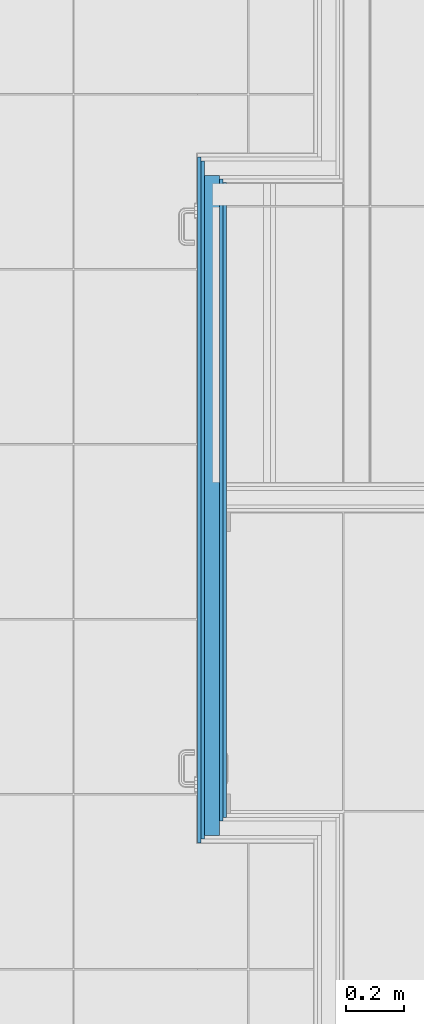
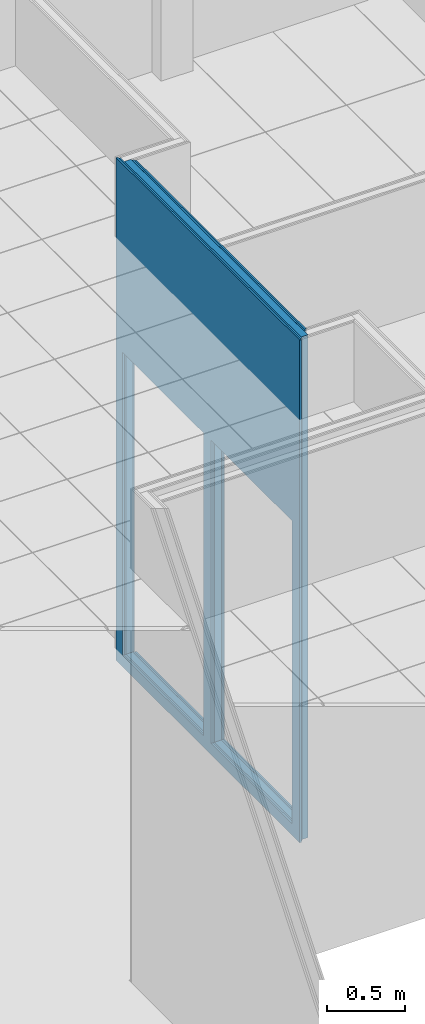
# One storey, part 46 of 321: 5 building element parts, 2 openings, 1 element without a shape of its own.
"""IFC2X3 building model written with IfcOpenShell, lengths in millimetres."""

from ifc_helpers import new_model, entity, si_unit, converted_unit, derived_unit, money_unit, direction, frame, origin_with_axes, place, context, subcontext, project, spatial, faceted_brep, material, type_object, element, aggregate, save


model = new_model("IFC2X3")

# Units and contexts
model_context = context("Model", 3, precision=0.01, world=origin_with_axes(), true_north=direction((0.0, 1.0)))
plan_context = context("Plan", 3, precision=0.01, world=origin_with_axes(), true_north=direction((0.0, 1.0)))
body_context = subcontext(model_context, "Body", "Model", "MODEL_VIEW")
ifc_project = project(units=[si_unit("LENGTHUNIT", "METRE", prefix="MILLI"), si_unit("AREAUNIT", "SQUARE_METRE"), si_unit("VOLUMEUNIT", "CUBIC_METRE"), converted_unit("PLANEANGLEUNIT", "DEGREE", entity("IfcPlaneAngleMeasure", 0.0174532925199), si_unit("PLANEANGLEUNIT", "RADIAN"), dimensions=[0, 0, 0, 0, 0, 0, 0]), money_unit("EUR"), converted_unit("TIMEUNIT", "Year", entity("IfcTimeMeasure", 31556926.0), si_unit("TIMEUNIT", "SECOND"), dimensions=[0, 0, 1, 0, 0, 0, 0]), si_unit("MASSUNIT", "GRAM", prefix="KILO"), si_unit("THERMODYNAMICTEMPERATUREUNIT", "DEGREE_CELSIUS"), si_unit("LUMINOUSINTENSITYUNIT", "LUMEN"), si_unit("ENERGYUNIT", "JOULE", prefix="MEGA"), derived_unit("THERMALCONDUCTANCEUNIT", [(si_unit("POWERUNIT", "WATT"), 1), (si_unit("LENGTHUNIT", "METRE"), -1), (si_unit("THERMODYNAMICTEMPERATUREUNIT", "KELVIN"), -1)]), derived_unit("SPECIFICHEATCAPACITYUNIT", [(si_unit("ENERGYUNIT", "JOULE"), 1), (si_unit("MASSUNIT", "GRAM", prefix="KILO"), -1), (si_unit("THERMODYNAMICTEMPERATUREUNIT", "KELVIN"), -1)]), derived_unit("MASSDENSITYUNIT", [(si_unit("MASSUNIT", "GRAM", prefix="KILO"), 1), (si_unit("VOLUMEUNIT", "CUBIC_METRE"), -1)])], contexts=[model_context, plan_context])

# Site, building, storey
site_placement = place(None, origin_with_axes())
site = spatial("IfcSite", under=ifc_project, at=site_placement, Name="Fortuinstraat Woensdrecht", CompositionType="ELEMENT")
building_placement = place(site_placement, origin_with_axes())
building = spatial("IfcBuilding", under=site, at=building_placement, Name="IKC Fortuna", CompositionType="ELEMENT")
storey_placement = place(building_placement, frame((0.0, 0.0, 4000.0), z_axis=(0.0, 0.0, 1.0), x_axis=(1.0, 0.0, 0.0)))
storey = spatial("IfcBuildingStorey", under=building, at=storey_placement, Name="01 eerste verdieping", CompositionType="ELEMENT", Elevation=4000.0)

# Wall, openings, building element parts
wall_type = type_object("IfcWallType", Name="MS100 2.50.2A 100", PredefinedType="NOTDEFINED")
wall_placement = place(storey_placement, frame((27444.4698587, 25018.6284319, -90.0), z_axis=(0.0, 0.0, 1.0), x_axis=(0.0, 1.0, 0.0)))
wall = element("IfcWall", 1, at=wall_placement, inside=storey, type_object=wall_type, Name="22_Wand_Binnenwand")
opening_1_placement = place(wall_placement, frame((1751.0, 0.0, 90.0), z_axis=(0.0, 0.0, 1.0), x_axis=(1.0, 0.0, 0.0)))
element("IfcOpeningElement", 2, at=opening_1_placement, cuts=wall, Name="32_Deur_h.01d", context=body_context, shape_type="Brep", body=[
    faceted_brep([(-517.0, 200.0, 2367.0), (-517.0, 200.0, 0.0), (-517.0, -100.0, 0.0), (-517.0, -100.0, 2367.0), (517.0, 200.0, 2367.0), (517.0, 200.0, 0.0), (517.0, -96.0929833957, 0.0), (513.092983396, -100.0, 0.0), (513.092983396, -100.0, 2367.0), (517.0, -96.0929833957, 2367.0)], [[[0, 1, 2, 3]], [[0, 4, 5, 1]], [[1, 5, 6, 7, 2]], [[3, 2, 7, 8]], [[4, 0, 3, 8, 9]], [[5, 4, 9, 6]], [[7, 6, 9, 8]]]),
])
opening_2_placement = place(wall_placement, frame((617.0, 0.0, 90.0), z_axis=(0.0, 0.0, 1.0), x_axis=(1.0, 0.0, 0.0)))
element("IfcOpeningElement", 3, at=opening_2_placement, cuts=wall, Name="32_Deur_h.01d", context=body_context, shape_type="Brep", body=[
    faceted_brep([(517.0, -100.0, 2367.0), (517.0, -100.0, 0.0), (517.0, 200.0, 0.0), (517.0, 200.0, 2367.0), (-517.0, -100.0, 2367.0), (-517.0, -100.0, 0.0), (-517.0, 200.0, 0.0), (-517.0, 200.0, 2367.0)], [[[0, 1, 2, 3]], [[0, 4, 5, 1]], [[1, 5, 6, 2]], [[3, 2, 6, 7]], [[4, 0, 3, 7]], [[5, 4, 7, 6]]]),
])
ifc_material_1 = material(Name="Gipsplaat")
building_element_part_1_placement = place(wall_placement, origin_with_axes())
building_element_part_1 = element("IfcBuildingElementPart", 4, at=building_element_part_1_placement, material=ifc_material_1, Name="Gipsplaat", context=body_context, shape_type="Brep", body=[
    faceted_brep([(2351.5929834, 0.0, 0.0), (0.0, 0.0, 0.0), (0.0, 0.0, 3930.0), (2351.5929834, 0.0, 3930.0), (100.0, 0.0, 2457.0), (100.0, 0.0, 90.0), (1134.0, 0.0, 90.0), (1134.0, 0.0, 2457.0), (1234.0, -3.12924797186e-06, 90.0), (2268.0, -3.12924797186e-06, 90.0), (2268.0, -3.12924797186e-06, 2457.0), (1234.0, -3.12924797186e-06, 2457.0), (2351.5929834, -12.5, 0.0), (0.0, -12.5, 0.0), (0.0, -12.5, 3930.0), (2351.5929834, -12.5, 3930.0), (100.0, -12.5, 2457.0), (100.0, -12.5, 90.0), (1134.0, -12.5, 90.0), (1134.0, -12.5, 2457.0), (1234.0, -12.5, 90.0), (2268.0, -12.5, 90.0), (2268.0, -12.5, 2457.0), (1234.0, -12.5, 2457.0)], [[[0, 1, 2, 3], [4, 5, 6, 7], [8, 9, 10, 11]], [[12, 13, 1, 0]], [[14, 2, 1, 13]], [[3, 2, 14, 15]], [[15, 12, 0, 3]], [[4, 16, 17, 5]], [[5, 17, 18, 6]], [[6, 18, 19, 7]], [[7, 19, 16, 4]], [[20, 21, 9, 8]], [[21, 22, 10, 9]], [[22, 23, 11, 10]], [[23, 20, 8, 11]], [[15, 14, 13, 12], [18, 17, 16, 19], [20, 23, 22, 21]]]),
])
building_element_part_2_placement = place(wall_placement, origin_with_axes())
building_element_part_2 = element("IfcBuildingElementPart", 5, at=building_element_part_2_placement, material=ifc_material_1, Name="Gipsplaat", context=body_context, shape_type="Brep", body=[
    faceted_brep([(2339.0929834, -12.5, 0.0), (12.5, -12.5, 0.0), (12.5, -12.5, 3930.0), (2339.0929834, -12.5, 3930.0), (100.0, -12.5, 2457.0), (100.0, -12.5, 90.0), (1134.0, -12.5, 90.0), (1134.0, -12.5, 2457.0), (1234.0, -12.5, 90.0), (2268.0, -12.5, 90.0), (2268.0, -12.5, 2457.0), (1234.0, -12.5, 2457.0), (2339.0929834, -25.0, 0.0), (12.5, -25.0, 0.0), (12.5, -25.0, 3930.0), (2339.0929834, -25.0, 3930.0), (100.0, -25.0, 2457.0), (100.0, -25.0, 90.0), (1134.0, -25.0, 90.0), (1134.0, -25.0, 2457.0), (1234.0, -25.0, 90.0), (2268.0, -25.0, 90.0), (2268.0, -25.0, 2457.0), (1234.0, -25.0, 2457.0)], [[[0, 1, 2, 3], [4, 5, 6, 7], [8, 9, 10, 11]], [[12, 13, 1, 0]], [[14, 2, 1, 13]], [[3, 2, 14, 15]], [[15, 12, 0, 3]], [[4, 16, 17, 5]], [[5, 17, 18, 6]], [[6, 18, 19, 7]], [[7, 19, 16, 4]], [[20, 21, 9, 8]], [[21, 22, 10, 9]], [[22, 23, 11, 10]], [[23, 20, 8, 11]], [[15, 14, 13, 12], [18, 17, 16, 19], [20, 23, 22, 21]]]),
])
ifc_material_2 = material(Name="Isolatie - Steenwol LSW")
building_element_part_3_placement = place(wall_placement, origin_with_axes())
building_element_part_3 = element("IfcBuildingElementPart", 6, at=building_element_part_3_placement, material=ifc_material_2, Name="Isolatie - Steenwol LSW", context=body_context, shape_type="Brep", body=[
    faceted_brep([(2289.0929834, -25.0, 0.0), (25.0, -25.0, 0.0), (25.0, -25.0, 3930.0), (2289.0929834, -25.0, 3930.0), (100.0, -25.0, 2457.0), (100.0, -25.0, 90.0), (1134.0, -25.0, 90.0), (1134.0, -25.0, 2457.0), (1234.0, -25.0, 90.0), (2268.0, -25.0, 90.0), (2268.0, -25.0, 2457.0), (1234.0, -25.0, 2457.0), (2289.0929834, -75.0, 0.0), (25.0, -75.0, 0.0), (25.0, -75.0, 3930.0), (2289.0929834, -75.0, 3930.0), (100.0, -75.0, 2457.0), (100.0, -75.0, 90.0), (1134.0, -75.0, 90.0), (1134.0, -75.0, 2457.0), (1234.0, -75.0, 90.0), (2268.0, -75.0, 90.0), (2268.0, -75.0, 2457.0), (1234.0, -75.0, 2457.0)], [[[0, 1, 2, 3], [4, 5, 6, 7], [8, 9, 10, 11]], [[12, 13, 1, 0]], [[14, 2, 1, 13]], [[3, 2, 14, 15]], [[15, 12, 0, 3]], [[4, 16, 17, 5]], [[5, 17, 18, 6]], [[6, 18, 19, 7]], [[7, 19, 16, 4]], [[20, 21, 9, 8]], [[21, 22, 10, 9]], [[22, 23, 11, 10]], [[23, 20, 8, 11]], [[15, 14, 13, 12], [18, 17, 16, 19], [20, 23, 22, 21]]]),
])
building_element_part_4_placement = place(wall_placement, origin_with_axes())
building_element_part_4 = element("IfcBuildingElementPart", 7, at=building_element_part_4_placement, material=ifc_material_1, Name="Gipsplaat", context=body_context, shape_type="Brep", body=[
    faceted_brep([(2276.5929834, -75.0, 0.0), (75.0, -75.0, 0.0), (75.0, -75.0, 3930.0), (2276.5929834, -75.0, 3930.0), (100.0, -75.0, 2457.0), (100.0, -75.0, 90.0), (1134.0, -75.0, 90.0), (1134.0, -75.0, 2457.0), (1234.0, -75.0, 90.0), (2268.0, -75.0, 90.0), (2268.0, -75.0, 2457.0), (1234.0, -75.0, 2457.0), (2276.5929834, -87.5, 0.0), (75.0, -87.5, 0.0), (75.0, -87.5, 3930.0), (2276.5929834, -87.5, 3930.0), (100.0, -87.5, 2457.0), (100.0, -87.5, 90.0), (1134.0, -87.5, 90.0), (1134.0, -87.5, 2457.0), (1234.0, -87.5, 90.0), (2268.0, -87.5, 90.0), (2268.0, -87.5, 2457.0), (1234.0, -87.5, 2457.0)], [[[0, 1, 2, 3], [4, 5, 6, 7], [8, 9, 10, 11]], [[12, 13, 1, 0]], [[14, 2, 1, 13]], [[3, 2, 14, 15]], [[15, 12, 0, 3]], [[4, 16, 17, 5]], [[5, 17, 18, 6]], [[6, 18, 19, 7]], [[7, 19, 16, 4]], [[20, 21, 9, 8]], [[21, 22, 10, 9]], [[22, 23, 11, 10]], [[23, 20, 8, 11]], [[15, 14, 13, 12], [18, 17, 16, 19], [20, 23, 22, 21]]]),
])
building_element_part_5_placement = place(wall_placement, origin_with_axes())
building_element_part_5 = element("IfcBuildingElementPart", 8, at=building_element_part_5_placement, material=ifc_material_1, Name="Gipsplaat", context=body_context, shape_type="Brep", body=[
    faceted_brep([(1234.0, -100.0, 90.0), (1234.0, -100.0, 2457.0), (2264.0929834, -100.0, 2457.0), (2264.0929834, -100.0, 3930.0), (87.5, -100.0, 3930.0), (87.5, -100.0, 0.0), (2264.0929834, -100.0, 0.0), (2264.0929834, -100.0, 90.0), (1134.0, -100.0, 90.0), (100.0, -100.0, 90.0), (100.0, -100.0, 2457.0), (1134.0, -100.0, 2457.0), (1234.0, -87.5, 90.0), (1234.0, -87.5, 2457.0), (2264.0929834, -87.5, 2457.0), (2264.0929834, -87.5, 3930.0), (87.5, -87.5, 3930.0), (87.5, -87.5, 0.0), (2264.0929834, -87.5, 0.0), (2264.0929834, -87.5, 90.0), (100.0, -87.5, 90.0), (1134.0, -87.5, 90.0), (100.0, -87.5, 2457.0), (1134.0, -87.5, 2457.0)], [[[0, 1, 2, 3, 4, 5, 6, 7], [8, 9, 10, 11]], [[1, 0, 12, 13]], [[14, 2, 1, 13]], [[2, 14, 15, 3]], [[15, 16, 4, 3]], [[4, 16, 17, 5]], [[6, 5, 17, 18]], [[19, 7, 6, 18]], [[0, 7, 19, 12]], [[20, 9, 8, 21]], [[22, 10, 9, 20]], [[23, 11, 10, 22]], [[21, 8, 11, 23]], [[12, 19, 18, 17, 16, 15, 14, 13], [22, 20, 21, 23]]]),
])
aggregate(wall, [building_element_part_1, building_element_part_2, building_element_part_3, building_element_part_4, building_element_part_5])

save(model, "model.ifc")
